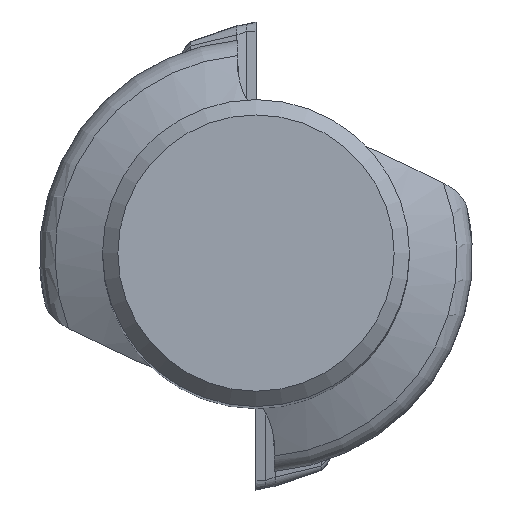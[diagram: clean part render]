
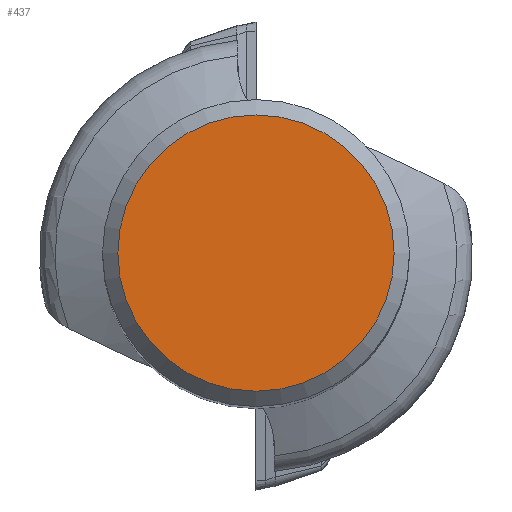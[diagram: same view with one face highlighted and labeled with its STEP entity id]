
A CAD part, top view. The second image highlights one B-rep face of the part: STEP entity #437.
In plain terms, the highlighted planar face has unit normal (0, 0, 1).
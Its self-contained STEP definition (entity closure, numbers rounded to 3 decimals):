
#155=PLANE('',#1596);
#437=ADVANCED_FACE('',(#545),#155,.T.);
#545=FACE_OUTER_BOUND('',#635,.T.);
#635=EDGE_LOOP('',(#824));
#748=CIRCLE('',#1595,9.);
#824=ORIENTED_EDGE('',*,*,#1366,.T.);
#1236=VERTEX_POINT('',#2202);
#1366=EDGE_CURVE('',#1236,#1236,#748,.T.);
#1595=AXIS2_PLACEMENT_3D('',#2201,#1748,#1749);
#1596=AXIS2_PLACEMENT_3D('',#2203,#1750,#1751);
#1748=DIRECTION('',(0.,0.,1.));
#1749=DIRECTION('',(1.,0.,0.));
#1750=DIRECTION('',(0.,0.,1.));
#1751=DIRECTION('',(-1.,0.,0.));
#2201=CARTESIAN_POINT('',(0.,0.,120.));
#2202=CARTESIAN_POINT('',(9.,0.,120.));
#2203=CARTESIAN_POINT('',(0.,0.,120.));
